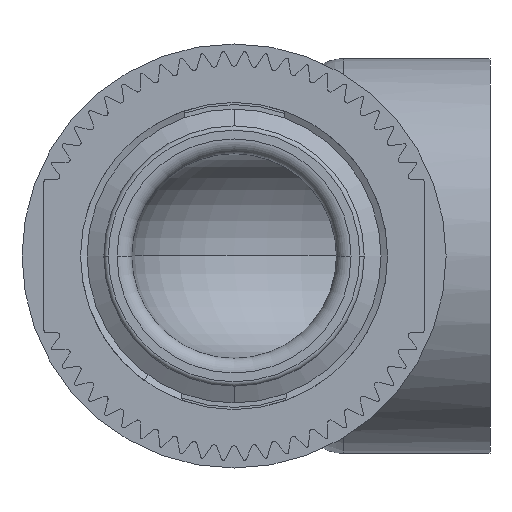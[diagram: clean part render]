
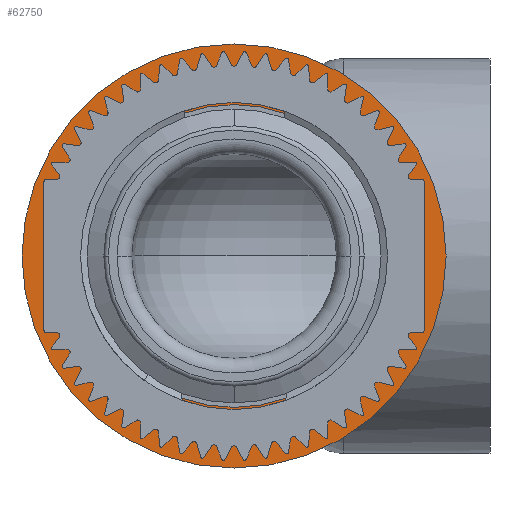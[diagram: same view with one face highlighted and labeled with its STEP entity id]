
A CAD part, front view. The second image highlights one B-rep face of the part: STEP entity #62750.
In plain terms, the highlighted planar face has unit normal (0, -1, 0).
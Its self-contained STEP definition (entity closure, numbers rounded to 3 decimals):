
#61690=CARTESIAN_POINT('',(208.937,-17.558,0.));
#61700=VERTEX_POINT('',#61690);
#61750=CARTESIAN_POINT('',(194.437,-17.558,0.));
#61760=DIRECTION('',(0.,-1.,0.));
#61770=DIRECTION('',(-1.,0.,0.));
#61780=AXIS2_PLACEMENT_3D('',#61750,#61760,#61770);
#61790=CIRCLE('',#61780,14.5);
#61800=CARTESIAN_POINT('',(179.937,-17.558,
0.));
#61810=VERTEX_POINT('',#61800);
#61820=EDGE_CURVE('',#61700,#61810,#61790,.T.);
#62370=CARTESIAN_POINT('',(204.787,-17.558,
0.));
#62380=VERTEX_POINT('',#62370);
#62460=CARTESIAN_POINT('',(184.087,-17.558,0.));
#62470=VERTEX_POINT('',#62460);
#62500=CARTESIAN_POINT('',(194.437,-17.558,0.));
#62510=DIRECTION('',(0.,-1.,0.));
#62520=DIRECTION('',(-1.,0.,0.));
#62530=AXIS2_PLACEMENT_3D('',#62500,#62510,#62520);
#62540=CIRCLE('',#62530,10.35);
#62550=EDGE_CURVE('',#62380,#62470,#62540,.T.);
#62600=CARTESIAN_POINT('',(183.012,-17.558,0.));
#62610=DIRECTION('',(-0.,-1.,-0.));
#62620=DIRECTION('',(-1.,0.,0.));
#62630=AXIS2_PLACEMENT_3D('',#62600,#62610,#62620);
#62640=PLANE('',#62630);
#62650=EDGE_CURVE('',#61810,#61700,#61790,.T.);
#62660=ORIENTED_EDGE('',*,*,#62650,.T.);
#62670=ORIENTED_EDGE('',*,*,#61820,.T.);
#62680=EDGE_LOOP('',(#62670,#62660));
#62690=FACE_OUTER_BOUND('',#62680,.T.);
#62700=EDGE_CURVE('',#62470,#62380,#62540,.T.);
#62710=ORIENTED_EDGE('',*,*,#62700,.F.);
#62720=ORIENTED_EDGE('',*,*,#62550,.F.);
#62730=EDGE_LOOP('',(#62720,#62710));
#62740=FACE_BOUND('',#62730,.T.);
#62750=ADVANCED_FACE('',(#62690,#62740),#62640,.T.);
